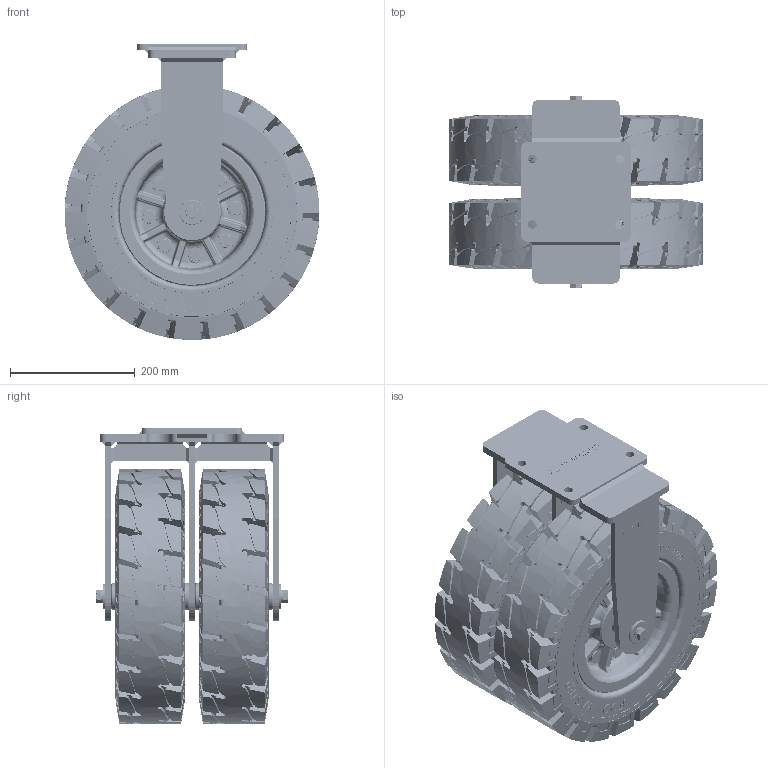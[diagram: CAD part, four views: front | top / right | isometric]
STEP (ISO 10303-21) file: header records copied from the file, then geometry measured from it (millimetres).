
FILE_DESCRIPTION(/* description */ (''),/* implementation_level */ '2;1');
FILE_NAME(/* name */ '\\192.168.10.38\지덕공유\1.기술연구소\2.연구개발 진행중\121.Solidtire caster_2024.11.22\제품설계\홈페이지용 도면\3D\GT-400\77.GTD-400-ARF-TRD.stp',/* time_stamp */ '2025-09-19T13:40:54+09:00',/* author */ ('admin'),/* organization */ (''),/* preprocessor_version */ 'ST-DEVELOPER v18.1',/* originating_system */ 'Autodesk Inventor 2021',/* authorisation */ '');
FILE_SCHEMA (('AUTOMOTIVE_DESIGN { 1 0 10303 214 3 1 1 }'));
Products named in the file (1): 77.GTD-400-ARF-TIRE-Rev01_2025.09.18_Shrinkwrap_1
Bounding box: 407.91 x 307 x 473.42 mm (x, y, z)
Volume: 25538197 mm3; surface area: 1467264.5 mm2
Topology: 1 solids, 1 shells, 7151 faces, 19696 edges, 12934 vertices
Faces by surface type: bspline 2643, plane 2181, cylinder 1261, cone 664, torus 402
Full cylindrical faces by diameter (mm): 12 x16, 14 x4, 18.5 x16, 24 x16, 40 x2, 42.7 x4, 258.997 x4, 317.998 x4, 333.998 x4, 336.998 x4
Entity records: 348927 total; most frequent: CARTESIAN_POINT 187669, ORIENTED_EDGE 39392, DIRECTION 20956, EDGE_CURVE 19696, VERTEX_POINT 12934, B_SPLINE_CURVE_WITH_KNOTS 9258, EDGE_LOOP 7570, AXIS2_PLACEMENT_3D 7451
